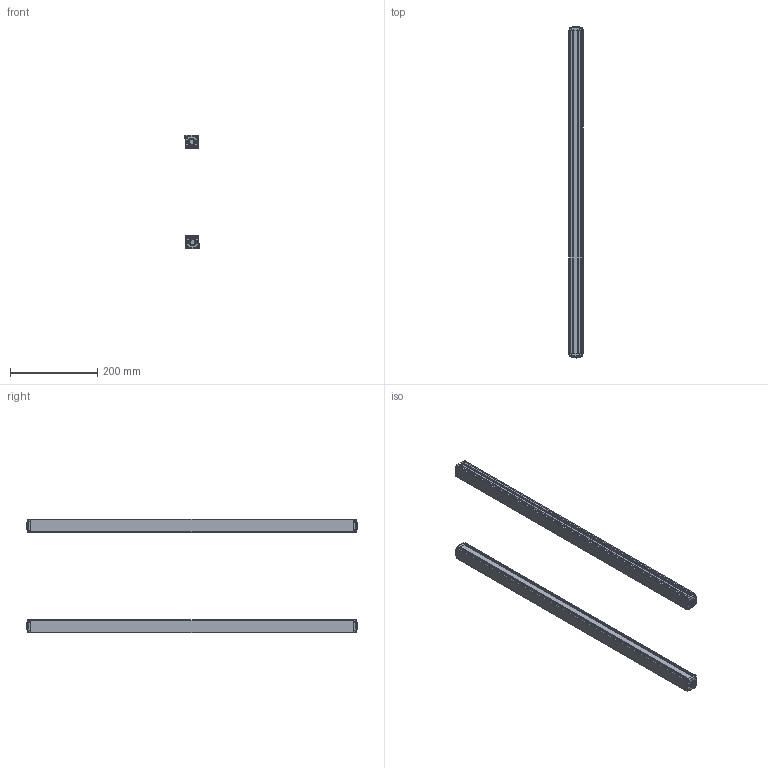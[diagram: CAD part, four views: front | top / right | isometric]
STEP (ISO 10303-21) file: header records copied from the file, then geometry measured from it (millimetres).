
FILE_DESCRIPTION (( 'STEP AP203' ), '1' );
FILE_NAME ('ZDA7210-740.STEP', '2022-12-17T06:50:52', ( 'User' ), ( 'China' ), 'SwSTEP 2.0', 'SolidWorks 2020', '' );
FILE_SCHEMA (( 'CONFIG_CONTROL_DESIGN' ));
Length unit declared in the file: millimetre
Products named in the file (5): ZDA7210-740; 錨璃10; 錨璃8; 錨璃8 - 萵掛 (2); 錨璃1
Assembly tree (8 placements, depth 2):
  ZDA7210-740
    錨璃1  x2
    錨璃8  x2
    錨璃8 - 萵掛 (2)  x2
    錨璃10  x2
Bounding box: 32.36 x 761.4 x 260.35 mm (x, y, z)
Volume: 472626.4 mm3; surface area: 500690 mm2
Topology: 8 solids, 8 shells, 1032 faces, 2690 edges, 1668 vertices
Faces by surface type: plane 464, cylinder 310, cone 120, bspline 58, torus 48, sphere 32
Entity records: 17901 total; most frequent: CARTESIAN_POINT 4731, ORIENTED_EDGE 2666, DIRECTION 2616, EDGE_CURVE 1333, AXIS2_PLACEMENT_3D 894, VERTEX_POINT 834, VECTOR 828, LINE 828
